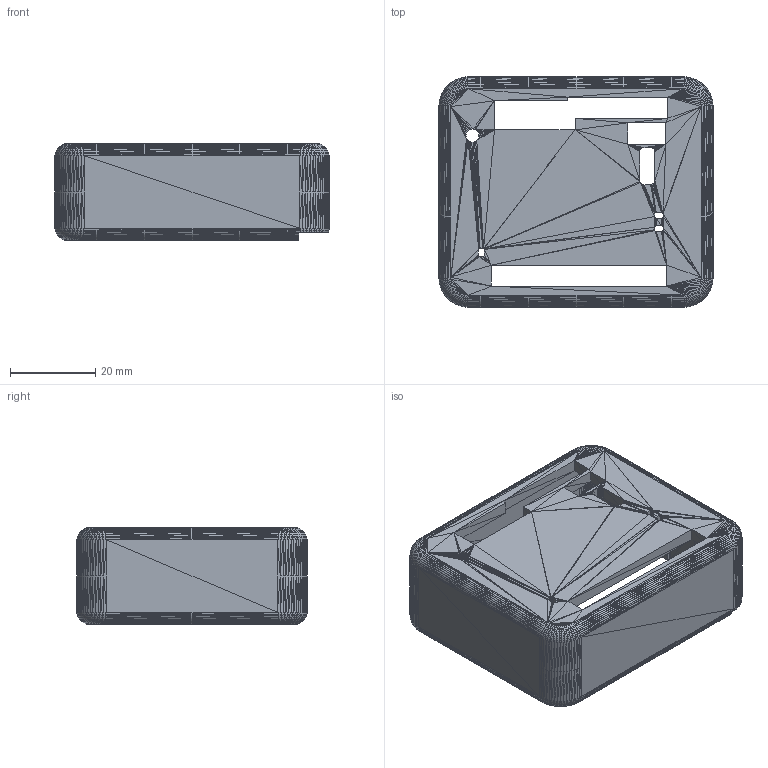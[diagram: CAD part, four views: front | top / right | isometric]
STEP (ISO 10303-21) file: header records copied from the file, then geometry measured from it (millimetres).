
FILE_DESCRIPTION((''),'2;1');
FILE_NAME('盒子2逆向 v3(1)', '2025-04-14T08:13:50', (''), (''), 'ImageToStl.com STEP Converter','', '');
FILE_SCHEMA(('AUTOMOTIVE_DESIGN_CC2'));
Length unit declared in the file: metre
Products named in the file (1): product0
Bounding box: 64.3 x 54 x 22.61 mm (x, y, z)
Surface area: 16010.4 mm2 (no closed solid volume)
Topology: 0 solids, 6634 shells, 6634 faces, 19902 edges, 3303 vertices
Faces by surface type: plane 6634
Entity records: 159223 total; most frequent: DIRECTION 33172, ORIENTED_EDGE 19902, EDGE_CURVE 19902, LINE 19902, VECTOR 19902, AXIS2_PLACEMENT_3D 6635, STYLED_ITEM 6635, FACE_SURFACE 6634
